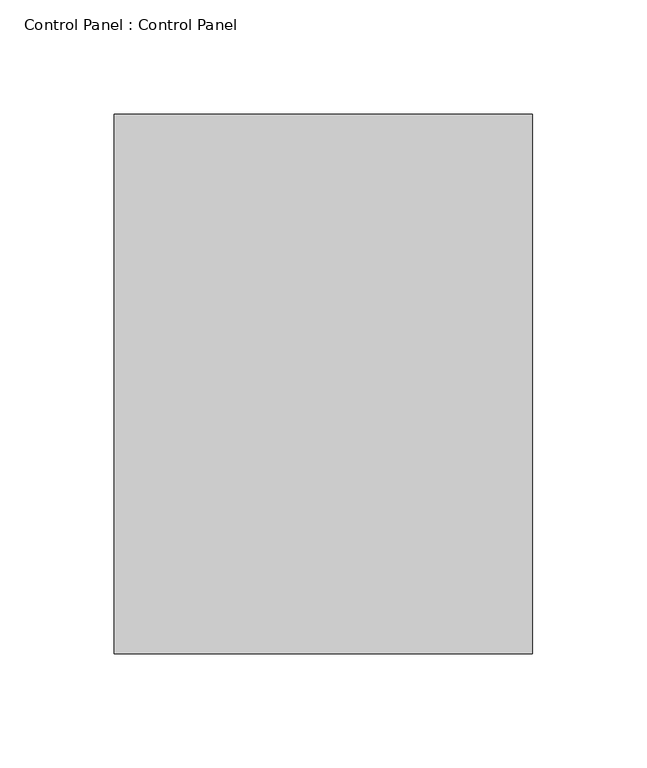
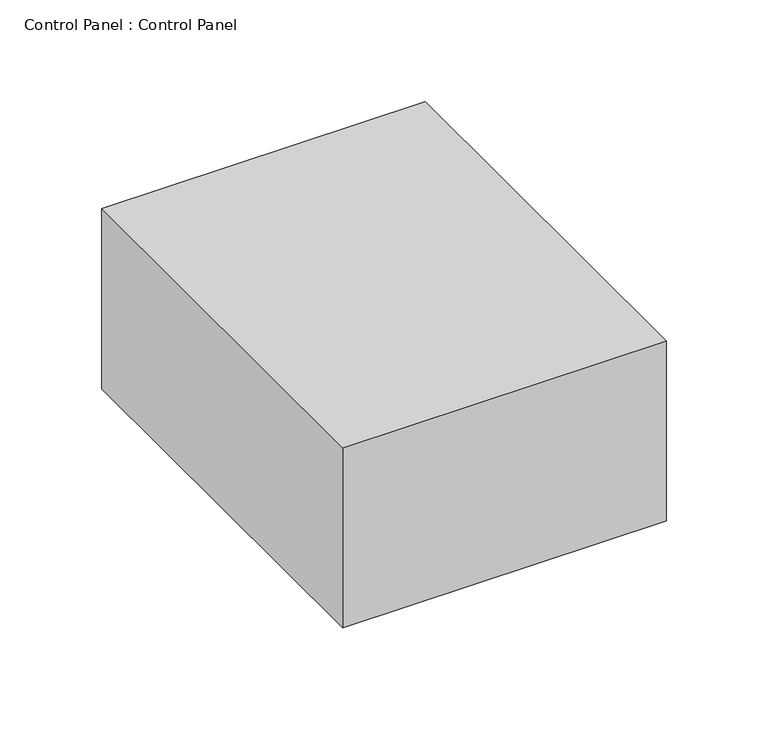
"""IFC4 building model written with IfcOpenShell, lengths in millimetres: proxy geometry, Control Panel : Control Panel."""

from ifc_helpers import new_model, si_unit, origin, origin_with_axes, place, context, project, spatial, polyline, outline, extrude, source, transform, mapped, element, save


def control_panel_control_panel_d727b30a(model_context):
    return source(origin(), model_context, "Body", "SweptSolid", [
        extrude(outline(polyline([(91.7202175, 118.2044143), (91.7202175, -118.2044143), (-91.7202175, -118.2044143), (-91.7202175, 118.2044143), (91.7202175, 118.2044143)])), origin_with_axes(), (0.0, 0.0, 1.0), 107.95),
    ])


if __name__ == "__main__":
    model = new_model("IFC4")
    model_context = context("Model", 3, world=origin())
    ifc_project = project(units=[si_unit("LENGTHUNIT", "METRE", prefix="MILLI")], contexts=[model_context])
    site = spatial("IfcSite", under=ifc_project)
    building = spatial("IfcBuilding", under=site)
    placement = place(None, origin())
    control_panel_control_panel_shape = control_panel_control_panel_d727b30a(model_context)
    element("IfcBuildingElementProxy", 1, Name="Control Panel : Control Panel", ObjectType="Control Panel : Control Panel", at=placement, inside=building, context=model_context, shape_type="MappedRepresentation", body=[
        mapped(control_panel_control_panel_shape, transform((0.0, 0.0, 0.0), x_axis=(1.0, 0.0, 0.0), y_axis=(0.0, 1.0, 0.0), z_axis=(0.0, 0.0, 1.0))),
    ])
    save(model, "model.ifc")
